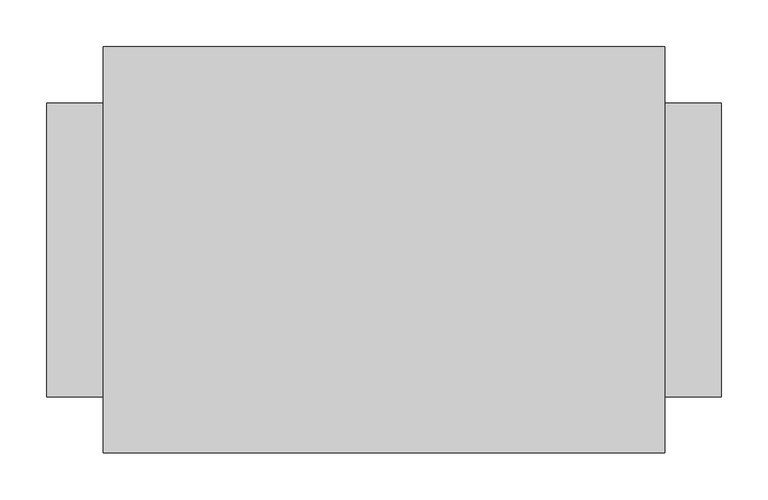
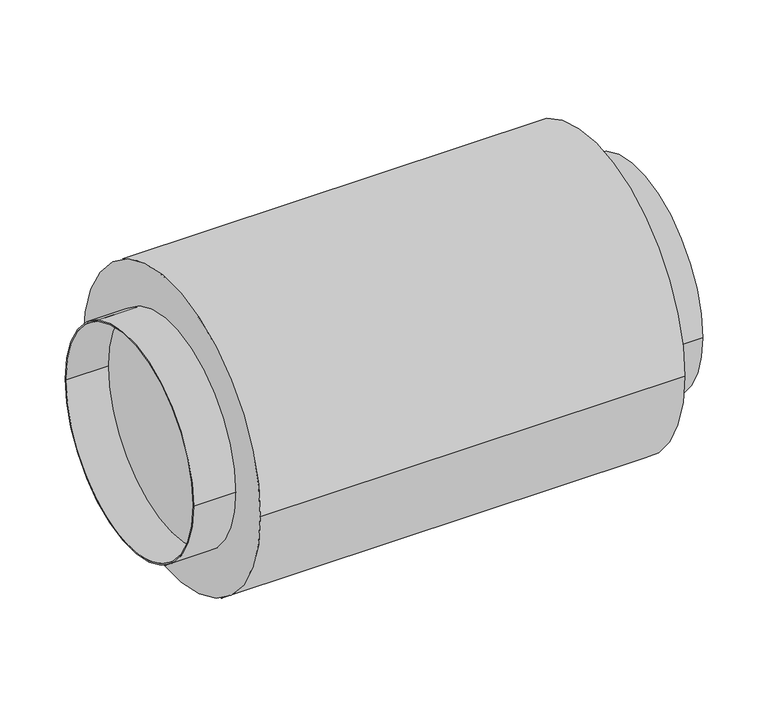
"""IFC4 building model written with IfcOpenShell, lengths in millimetres: damper geometry, СВ_Шумоглушитель_КанальныйКруглый_DN100-315_SHK : SHK-315/600."""

from ifc_helpers import new_model, si_unit, point, frame, origin, origin_2d, place, context, project, spatial, circle_curve, trimmed, segment, composite_curve, outline, extrude, source, transform, mapped, element, save


def damper_5eaaab7c(model_context):
    return source(origin(), model_context, "Body", "SweptSolid", [
        extrude(outline(composite_curve([segment(trimmed(circle_curve(origin_2d(), 217.0), [point((-217.0, 0.0))], [point((217.0, 0.0))], False, "CARTESIAN"), True, "CONTINUOUS"), segment(trimmed(circle_curve(origin_2d(), 217.0), [point((217.0, 0.0))], [point((-217.0, 0.0))], False, "CARTESIAN"), True, "CONTINUOUS")], self_intersect=False)), frame((-300.0, 0.0, 0.0), z_axis=(1.0, 0.0, 0.0), x_axis=(0.0, 1.0, 0.0)), (0.0, 0.0, 1.0), 600.0),
        extrude(outline(composite_curve([segment(trimmed(circle_curve(origin_2d(), 157.0), [point((-157.0, 0.0))], [point((157.0, 0.0))], False, "CARTESIAN"), True, "CONTINUOUS"), segment(trimmed(circle_curve(origin_2d(), 157.0), [point((157.0, 0.0))], [point((-157.0, 0.0))], False, "CARTESIAN"), True, "CONTINUOUS")], self_intersect=False), holes=[composite_curve([segment(trimmed(circle_curve(origin_2d(), 155.0), [point((-155.0, 0.0))], [point((155.0, 0.0))], True, "CARTESIAN"), True, "CONTINUOUS"), segment(trimmed(circle_curve(origin_2d(), 155.0), [point((155.0, 0.0))], [point((-155.0, 0.0))], True, "CARTESIAN"), True, "CONTINUOUS")], self_intersect=False)]), frame((-360.0, 0.0, 0.0), z_axis=(1.0, 0.0, 0.0), x_axis=(0.0, 1.0, 0.0)), (0.0, 0.0, 1.0), 60.0),
        extrude(outline(composite_curve([segment(trimmed(circle_curve(origin_2d(), 157.0), [point((-157.0, 0.0))], [point((157.0, 0.0))], False, "CARTESIAN"), True, "CONTINUOUS"), segment(trimmed(circle_curve(origin_2d(), 157.0), [point((157.0, 0.0))], [point((-157.0, 0.0))], False, "CARTESIAN"), True, "CONTINUOUS")], self_intersect=False), holes=[composite_curve([segment(trimmed(circle_curve(origin_2d(), 155.0), [point((-155.0, 0.0))], [point((155.0, 0.0))], True, "CARTESIAN"), True, "CONTINUOUS"), segment(trimmed(circle_curve(origin_2d(), 155.0), [point((155.0, 0.0))], [point((-155.0, 0.0))], True, "CARTESIAN"), True, "CONTINUOUS")], self_intersect=False)]), frame((300.0, 0.0, 0.0), z_axis=(1.0, 0.0, 0.0), x_axis=(0.0, 1.0, 0.0)), (0.0, 0.0, 1.0), 60.0),
    ])


if __name__ == "__main__":
    model = new_model("IFC4")
    model_context = context("Model", 3, world=origin())
    ifc_project = project(units=[si_unit("LENGTHUNIT", "METRE", prefix="MILLI")], contexts=[model_context])
    site = spatial("IfcSite", under=ifc_project)
    building = spatial("IfcBuilding", under=site)
    placement = place(None, origin())
    damper_shape = damper_5eaaab7c(model_context)
    element("IfcDamper", 1, ObjectType="СВ_Шумоглушитель_КанальныйКруглый_DN100-315_SHK : SHK-315/600", at=placement, inside=building, context=model_context, shape_type="MappedRepresentation", body=[
        mapped(damper_shape, transform((0.0, 0.0, 0.0), x_axis=(1.0, 0.0, 0.0), y_axis=(0.0, 1.0, 0.0), z_axis=(0.0, 0.0, 1.0))),
    ])
    save(model, "model.ifc")
